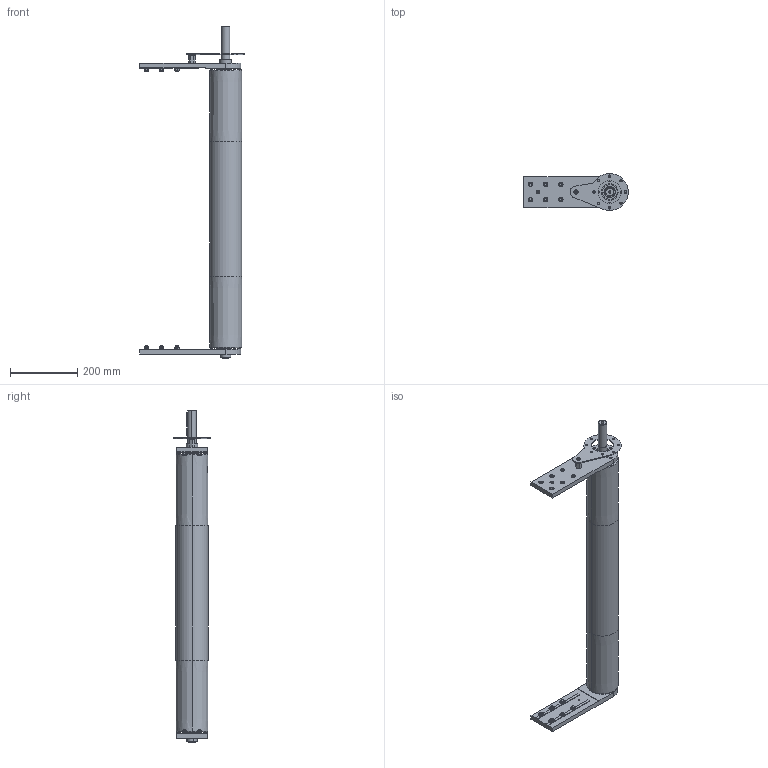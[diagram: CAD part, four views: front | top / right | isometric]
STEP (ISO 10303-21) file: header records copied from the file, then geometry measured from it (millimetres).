
FILE_DESCRIPTION (( 'STEP AP203' ), '1' );
FILE_NAME ('084.095.KD.49.800.STEP', '2015-11-12T10:01:14', ( '' ), ( '' ), 'SwSTEP 2.0', 'SolidWorks 2012', '' );
FILE_SCHEMA (( 'CONFIG_CONTROL_DESIGN' ));
Length unit declared in the file: millimetre
Products named in the file (1): 084.095.KD.49.800
Bounding box: 310 x 110 x 984.5 mm (x, y, z)
Surface area: 444230.1 mm2 (no closed solid volume)
Topology: 0 solids, 53 shells, 520 faces, 1609 edges, 1126 vertices
Faces by surface type: plane 299, cylinder 123, torus 52, cone 36, bspline 8, sphere 2
Entity records: 18988 total; most frequent: CARTESIAN_POINT 4596, DIRECTION 3037, ORIENTED_EDGE 2670, EDGE_CURVE 1605, VERTEX_POINT 1124, AXIS2_PLACEMENT_3D 1111, LINE 815, VECTOR 815
